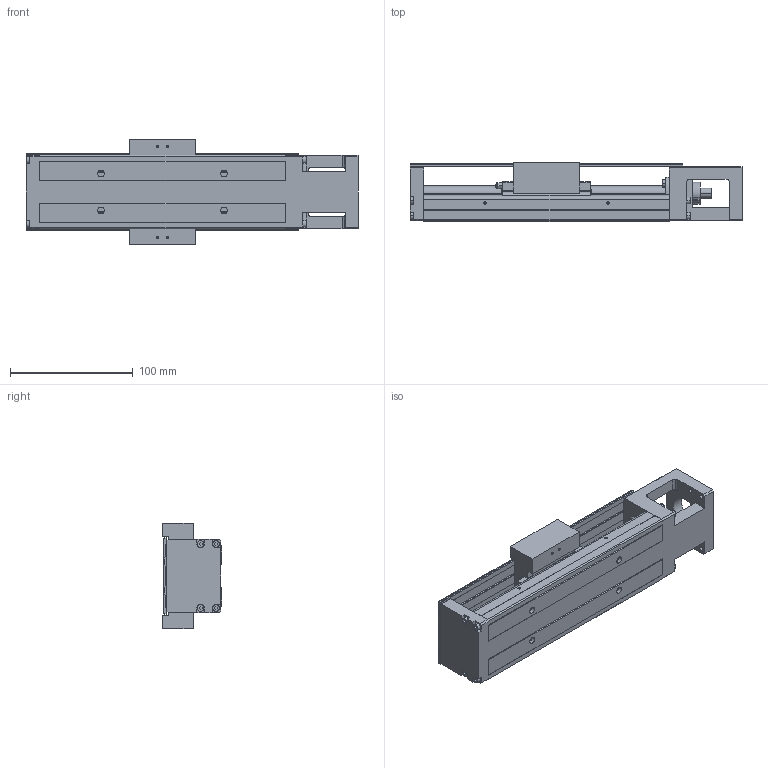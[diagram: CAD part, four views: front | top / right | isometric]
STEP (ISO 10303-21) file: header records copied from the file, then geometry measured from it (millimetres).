
FILE_DESCRIPTION (( 'STEP AP203' ), '1' );
FILE_NAME ('HKK60D5C-200A1-F0C.stp', '2021-11-25T07:11:51', ( '' ), ( '' ), 'SwSTEP 2.0', 'SolidWorks 2018', '' );
FILE_SCHEMA (( 'CONFIG_CONTROL_DESIGN' ));
Length unit declared in the file: millimetre
Products named in the file (1): HKK60D5C-200A1-F0C
Bounding box: 270 x 48 x 86 mm (x, y, z)
Volume: 423182.8 mm3; surface area: 136150.1 mm2
Topology: 2 solids, 10 shells, 793 faces, 2127 edges, 1365 vertices
Faces by surface type: plane 519, cylinder 214, cone 50, torus 8, bspline 2
Entity records: 24912 total; most frequent: CARTESIAN_POINT 4960, ORIENTED_EDGE 4154, DIRECTION 4065, EDGE_CURVE 2077, LINE 1505, VECTOR 1505, VERTEX_POINT 1365, AXIS2_PLACEMENT_3D 1280
